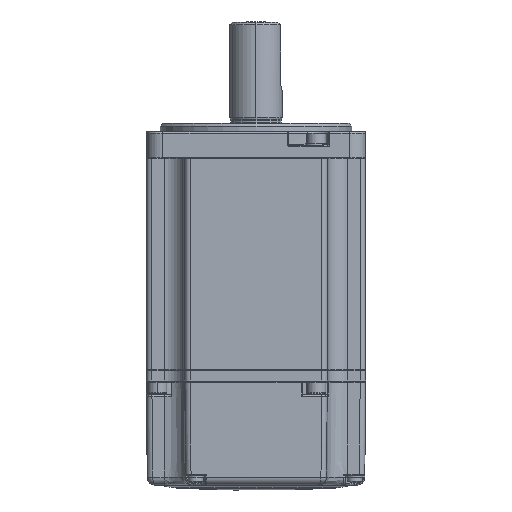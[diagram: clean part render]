
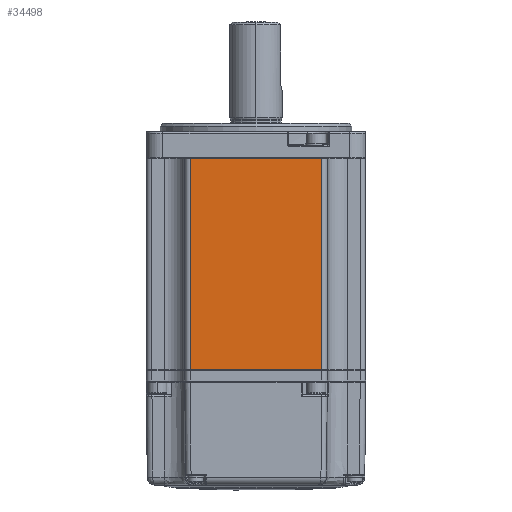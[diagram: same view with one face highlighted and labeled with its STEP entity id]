
A CAD part, front view. The second image highlights one B-rep face of the part: STEP entity #34498.
In plain terms, the highlighted planar face has unit normal (0, 1, 0).
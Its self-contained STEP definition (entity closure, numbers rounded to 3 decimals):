
#1579 = AXIS2_PLACEMENT_3D ( 'NONE', #21125, #38631, #12623 ) ;
#2051 = CARTESIAN_POINT ( 'NONE',  ( 24., -40., 79.5 ) ) ;
#2115 = CARTESIAN_POINT ( 'NONE',  ( -24., -40., 78.3 ) ) ;
#4486 = VECTOR ( 'NONE', #24038, 1000. ) ;
#6997 = EDGE_CURVE ( 'NONE', #19296, #34798, #16045, .T. ) ;
#12071 = VECTOR ( 'NONE', #24437, 1000. ) ;
#12500 = LINE ( 'NONE', #52221, #45829 ) ;
#12623 = DIRECTION ( 'NONE',  ( -1., 0., 0. ) ) ;
#13751 = EDGE_CURVE ( 'NONE', #34798, #26699, #12500, .T. ) ;
#16045 = LINE ( 'NONE', #22708, #4486 ) ;
#17219 = ORIENTED_EDGE ( 'NONE', *, *, #36243, .T. ) ;
#17417 = DIRECTION ( 'NONE',  ( 1., 0., 0. ) ) ;
#19296 = VERTEX_POINT ( 'NONE', #31826 ) ;
#20385 = EDGE_CURVE ( 'NONE', #35049, #19296, #22246, .T. ) ;
#20504 = CARTESIAN_POINT ( 'NONE',  ( 24., -40., 1.2 ) ) ;
#21125 = CARTESIAN_POINT ( 'NONE',  ( 0., -40., 79.5 ) ) ;
#22246 = LINE ( 'NONE', #54925, #12071 ) ;
#22708 = CARTESIAN_POINT ( 'NONE',  ( -24., -40., 79.5 ) ) ;
#24038 = DIRECTION ( 'NONE',  ( 0., 0., 1. ) ) ;
#24437 = DIRECTION ( 'NONE',  ( -1., 0., 0. ) ) ;
#26039 = ORIENTED_EDGE ( 'NONE', *, *, #13751, .T. ) ;
#26699 = VERTEX_POINT ( 'NONE', #42800 ) ;
#28356 = ORIENTED_EDGE ( 'NONE', *, *, #6997, .T. ) ;
#28930 = LINE ( 'NONE', #2051, #37770 ) ;
#31826 = CARTESIAN_POINT ( 'NONE',  ( -24., -40., 1.2 ) ) ;
#31852 = EDGE_LOOP ( 'NONE', ( #52933, #28356, #26039, #17219 ) ) ;
#32416 = DIRECTION ( 'NONE',  ( 0., 0., -1. ) ) ;
#34241 = PLANE ( 'NONE',  #1579 ) ;
#34498 = ADVANCED_FACE ( 'NONE', ( #52102 ), #34241, .T. ) ;
#34798 = VERTEX_POINT ( 'NONE', #2115 ) ;
#35049 = VERTEX_POINT ( 'NONE', #20504 ) ;
#36243 = EDGE_CURVE ( 'NONE', #26699, #35049, #28930, .T. ) ;
#37770 = VECTOR ( 'NONE', #32416, 1000. ) ;
#38631 = DIRECTION ( 'NONE',  ( 0., 1., 0. ) ) ;
#42800 = CARTESIAN_POINT ( 'NONE',  ( 24., -40., 78.3 ) ) ;
#45829 = VECTOR ( 'NONE', #17417, 1000. ) ;
#52102 = FACE_OUTER_BOUND ( 'NONE', #31852, .T. ) ;
#52221 = CARTESIAN_POINT ( 'NONE',  ( 0., -40., 78.3 ) ) ;
#52933 = ORIENTED_EDGE ( 'NONE', *, *, #20385, .T. ) ;
#54925 = CARTESIAN_POINT ( 'NONE',  ( 0., -40., 1.2 ) ) ;
